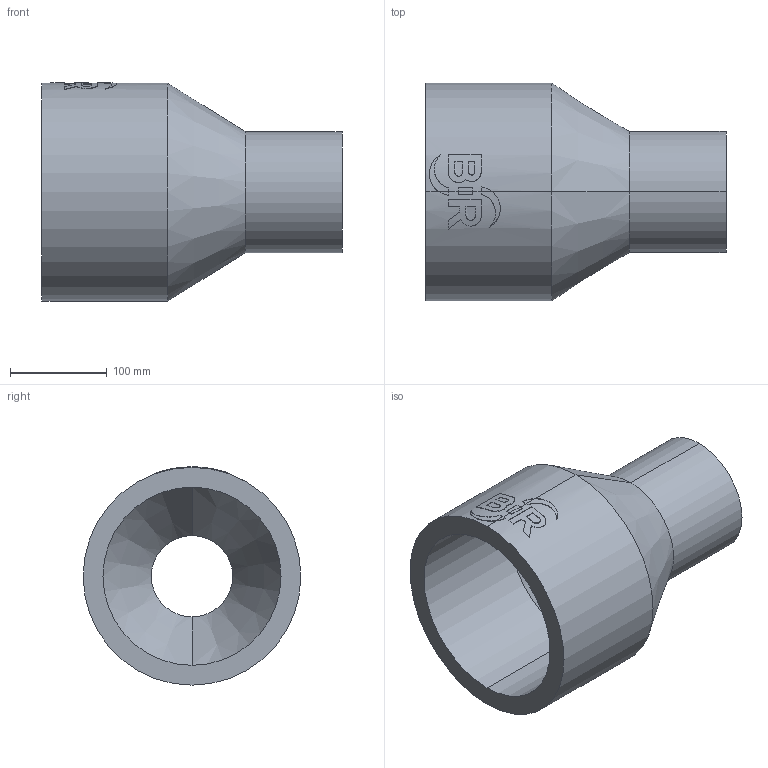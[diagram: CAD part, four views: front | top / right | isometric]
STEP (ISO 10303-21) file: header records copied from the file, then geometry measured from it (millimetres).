
FILE_DESCRIPTION (( 'STEP AP214' ), '1' );
FILE_NAME ('2323201535.STEP', '2018-07-20T10:24:48', ( '' ), ( '' ), 'SwSTEP 2.0', 'SolidWorks 2017', '' );
FILE_SCHEMA (( 'AUTOMOTIVE_DESIGN' ));
Length unit declared in the file: millimetre
Products named in the file (1): 2323201535
Bounding box: 310 x 225 x 225.46 mm (x, y, z)
Volume: 3305858.6 mm3; surface area: 342637.9 mm2
Topology: 1 solids, 1 shells, 63 faces, 160 edges, 104 vertices
Faces by surface type: cylinder 31, plane 28, cone 4
Entity records: 3325 total; most frequent: CARTESIAN_POINT 1116, ORIENTED_EDGE 320, DIRECTION 296, EDGE_CURVE 160, AXIS2_PLACEMENT_3D 112, VERTEX_POINT 104, LINE 72, VECTOR 72
